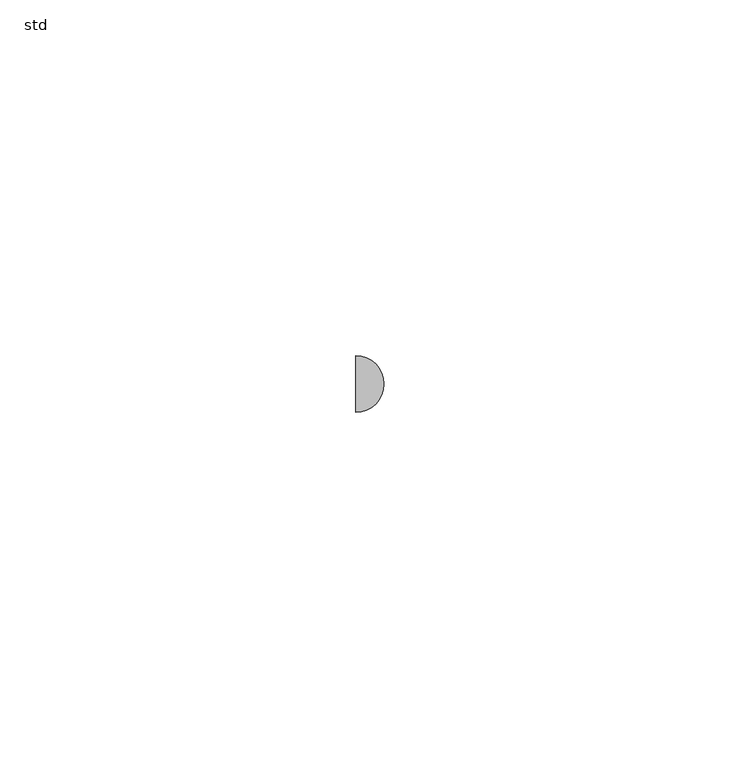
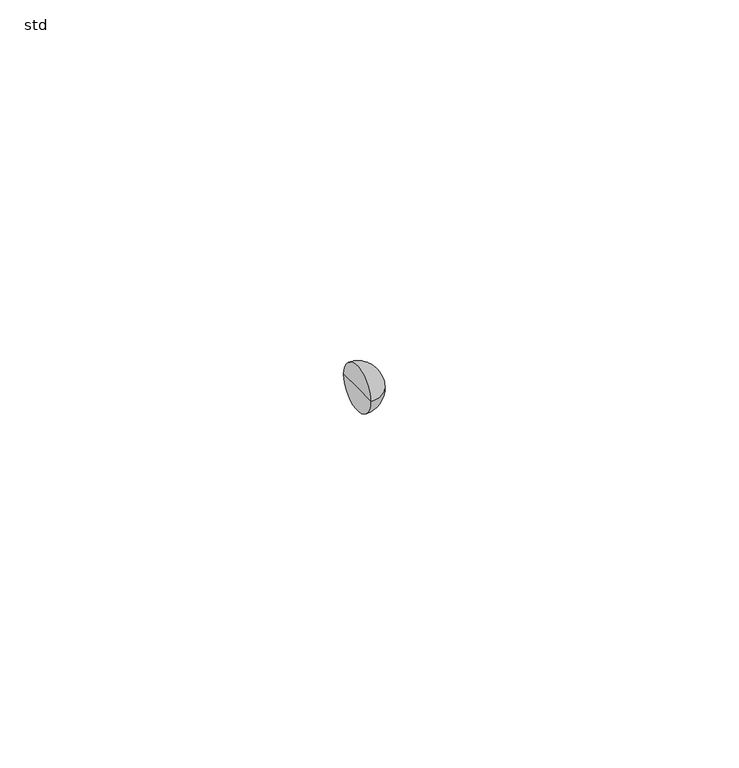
"""IFC4 building model written with IfcOpenShell, lengths in millimetres: pipe fitting geometry, PIF_ST_UN_GM-X double bend_ACO : std."""

from ifc_helpers import new_model, si_unit, point, frame, origin, place, context, project, spatial, circle_curve, ellipse_curve, trimmed, source, transform, mapped, element, save
from ifc_brep_helpers import plane_surface, revolved_surface, advanced_brep


def std_c7778bcf(model_context):
    return source(origin(), model_context, "Body", "AdvancedBrep", [
        advanced_brep(
        [(-178.9316033, -4.0, 0.0), (-178.9316033, 4.0, 0.0), (-174.9316033, 0.0, 0.0), (-178.9316033, 0.0, 0.0)],
        [
            (0, 1, circle_curve(frame((-178.9316033, 0.0, 0.0), z_axis=(1.0, 0.0, 0.0), x_axis=(0.0, 1.0, 0.0)), 4.0)),
            (1, 2, circle_curve(frame((-178.9316033, 0.0, 0.0), z_axis=(0.0, 0.0, -1.0), x_axis=(-1.0, 0.0, 0.0)), 4.0)),
            (2, 0, circle_curve(frame((-178.9316033, 0.0, 0.0), z_axis=(0.0, 0.0, -1.0), x_axis=(-1.0, 0.0, 0.0)), 4.0)),
            (1, 0, circle_curve(frame((-178.9316033, 0.0, 0.0), z_axis=(1.0, 0.0, 0.0), x_axis=(0.0, 1.0, 0.0)), 4.0)),
            (3, 1),
            (0, 3),
        ],
        [
            revolved_surface(trimmed(ellipse_curve(frame((-178.9316033, 0.0, 0.0), z_axis=(0.0, 0.0, 1.0), x_axis=(-1.0, 0.0, 0.0)), 4.0, 4.0), [point((-174.9316033, 0.0, 0.0))], [point((-178.9316033, 4.0, 0.0))], True, "CARTESIAN"), (-185.9232807, 0.0, 0.0), (-1.0, 0.0, 0.0)),
            plane_surface(frame((-178.9316033, 0.0, 0.0), z_axis=(-1.0, 0.0, 0.0), x_axis=(0.0, 1.0, 0.0))),
        ],
        [
            (0, [[1, 2, 3]]),
            (0, [[4, -3, -2]]),
            (1, [[5, -1, 6]]),
            (1, [[-6, -4, -5]]),
        ],
    ),
    ])


if __name__ == "__main__":
    model = new_model("IFC4")
    model_context = context("Model", 3, world=origin())
    ifc_project = project(units=[si_unit("LENGTHUNIT", "METRE", prefix="MILLI")], contexts=[model_context])
    site = spatial("IfcSite", under=ifc_project)
    building = spatial("IfcBuilding", under=site)
    placement = place(None, origin())
    std_shape = std_c7778bcf(model_context)
    element("IfcPipeFitting", 1, ObjectType="PIF_ST_UN_GM-X double bend_ACO : std", at=placement, inside=building, context=model_context, shape_type="MappedRepresentation", body=[
        mapped(std_shape, transform((0.0, 0.0, 0.0), x_axis=(1.0, 0.0, 0.0), y_axis=(0.0, 1.0, 0.0), z_axis=(0.0, 0.0, 1.0))),
    ])
    save(model, "model.ifc")
